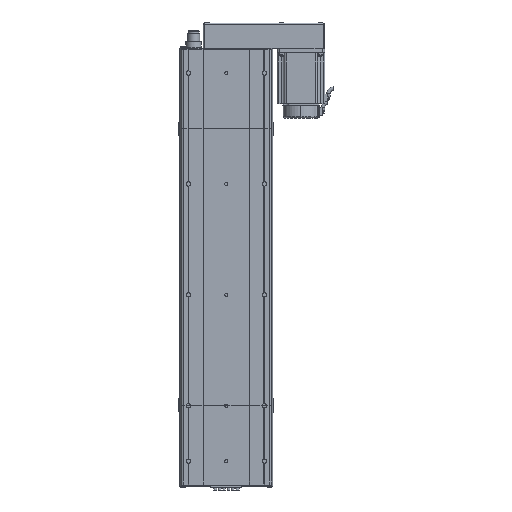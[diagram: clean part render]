
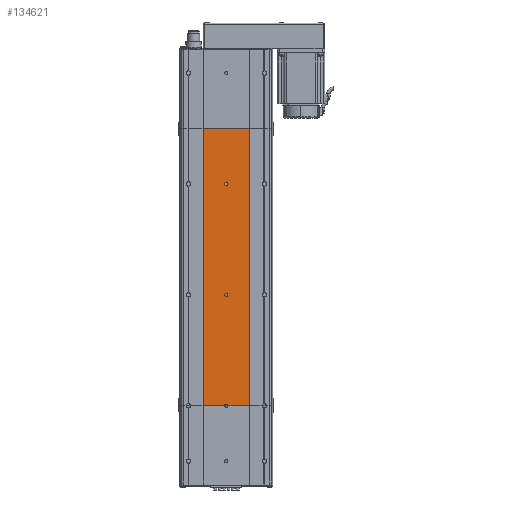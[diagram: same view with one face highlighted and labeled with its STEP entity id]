
A CAD part, front view. The second image highlights one B-rep face of the part: STEP entity #134621.
In plain terms, the highlighted planar face has unit normal (0, -1, 0).
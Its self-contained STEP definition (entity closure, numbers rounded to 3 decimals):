
#46738 = CARTESIAN_POINT ( 'NONE',  ( 0., 0., 197. ) ) ;
#49261 = DIRECTION ( 'NONE',  ( 1., 0., 0. ) ) ;
#49262 = VECTOR ( 'NONE', #49261, 1000. ) ;
#49263 = CARTESIAN_POINT ( 'NONE',  ( 0., 0., 500. ) ) ;
#49264 = LINE ( 'NONE', #49263, #49262 ) ;
#49394 = DIRECTION ( 'NONE',  ( 0., 0., 1. ) ) ;
#49395 = DIRECTION ( 'NONE',  ( 0., 1., 0. ) ) ;
#49396 = CARTESIAN_POINT ( 'NONE',  ( 0., 0., 500. ) ) ;
#49397 = AXIS2_PLACEMENT_3D ( 'NONE', #49396, #49395, #49394 ) ;
#49398 = CIRCLE ( 'NONE', #49571, 3. ) ;
#49477 = FACE_OUTER_BOUND ( 'NONE', #134989, .T. ) ;
#49567 = DIRECTION ( 'NONE',  ( 0., 0., -1. ) ) ;
#49568 = DIRECTION ( 'NONE',  ( 0., -1., 0. ) ) ;
#49570 = CARTESIAN_POINT ( 'NONE',  ( 0., 0., 200. ) ) ;
#49571 = AXIS2_PLACEMENT_3D ( 'NONE', #49570, #49568, #49567 ) ;
#49638 = FACE_BOUND ( 'NONE', #135048, .T. ) ;
#49703 = FACE_BOUND ( 'NONE', #135472, .T. ) ;
#49753 = PLANE ( 'NONE',  #49397 ) ;
#51355 = CARTESIAN_POINT ( 'NONE',  ( 0., 0., 397. ) ) ;
#51806 = DIRECTION ( 'NONE',  ( -1., 0., 0. ) ) ;
#51807 = CARTESIAN_POINT ( 'NONE',  ( 0., 0., 0. ) ) ;
#51810 = CARTESIAN_POINT ( 'NONE',  ( -41.5, 0., 0. ) ) ;
#51859 = VECTOR ( 'NONE', #51806, 1000. ) ;
#51866 = CARTESIAN_POINT ( 'NONE',  ( 41.5, 0., 0. ) ) ;
#51890 = LINE ( 'NONE', #51807, #51859 ) ;
#51891 = CARTESIAN_POINT ( 'NONE',  ( 41.5, 0., 500. ) ) ;
#52078 = CARTESIAN_POINT ( 'NONE',  ( -3., 0., 0. ) ) ;
#52090 = CARTESIAN_POINT ( 'NONE',  ( 0., 0., 403. ) ) ;
#52286 = DIRECTION ( 'NONE',  ( 0., 0., -1. ) ) ;
#52288 = DIRECTION ( 'NONE',  ( 0., -1., 0. ) ) ;
#52293 = AXIS2_PLACEMENT_3D ( 'NONE', #52435, #52288, #52286 ) ;
#52350 = CIRCLE ( 'NONE', #52293, 3. ) ;
#52435 = CARTESIAN_POINT ( 'NONE',  ( 0., 0., 400. ) ) ;
#53229 = CARTESIAN_POINT ( 'NONE',  ( 0., 0., 203. ) ) ;
#53368 = CARTESIAN_POINT ( 'NONE',  ( 0., 0., 0. ) ) ;
#53370 = CIRCLE ( 'NONE', #53527, 3. ) ;
#53371 = VECTOR ( 'NONE', #53498, 1000. ) ;
#53443 = VECTOR ( 'NONE', #53444, 1000. ) ;
#53444 = DIRECTION ( 'NONE',  ( 0., 0., -1. ) ) ;
#53445 = CARTESIAN_POINT ( 'NONE',  ( 41.5, 0., 500. ) ) ;
#53446 = LINE ( 'NONE', #53445, #53443 ) ;
#53447 = DIRECTION ( 'NONE',  ( 0., 0., -1. ) ) ;
#53448 = VECTOR ( 'NONE', #53447, 1000. ) ;
#53449 = CARTESIAN_POINT ( 'NONE',  ( -41.5, 0., 500. ) ) ;
#53494 = CARTESIAN_POINT ( 'NONE',  ( -41.5, 0., 500. ) ) ;
#53495 = DIRECTION ( 'NONE',  ( 0., -1., 0. ) ) ;
#53496 = CARTESIAN_POINT ( 'NONE',  ( 0., 0., 200. ) ) ;
#53498 = DIRECTION ( 'NONE',  ( 1., 0., 0. ) ) ;
#53499 = CARTESIAN_POINT ( 'NONE',  ( 0., 0., 0. ) ) ;
#53503 = CIRCLE ( 'NONE', #53525, 3. ) ;
#53508 = LINE ( 'NONE', #53499, #53371 ) ;
#53523 = DIRECTION ( 'NONE',  ( 0., 0., -1. ) ) ;
#53524 = DIRECTION ( 'NONE',  ( 0., -1., 0. ) ) ;
#53525 = AXIS2_PLACEMENT_3D ( 'NONE', #53496, #53524, #53523 ) ;
#53526 = DIRECTION ( 'NONE',  ( 0., 0., -1. ) ) ;
#53527 = AXIS2_PLACEMENT_3D ( 'NONE', #53368, #53495, #53526 ) ;
#53530 = LINE ( 'NONE', #53449, #53448 ) ;
#53584 = AXIS2_PLACEMENT_3D ( 'NONE', #53586, #53589, #53685 ) ;
#53586 = CARTESIAN_POINT ( 'NONE',  ( 0., 0., 400. ) ) ;
#53588 = CIRCLE ( 'NONE', #53584, 3. ) ;
#53589 = DIRECTION ( 'NONE',  ( 0., -1., 0. ) ) ;
#53685 = DIRECTION ( 'NONE',  ( 0., 0., -1. ) ) ;
#53710 = CARTESIAN_POINT ( 'NONE',  ( 3., 0., 0. ) ) ;
#134058 = VERTEX_POINT ( 'NONE', #46738 ) ;
#134508 = ORIENTED_EDGE ( 'NONE', *, *, #135259, .T. ) ;
#134553 = ORIENTED_EDGE ( 'NONE', *, *, #135268, .F. ) ;
#134556 = EDGE_CURVE ( 'NONE', #135296, #134977, #49264, .T. ) ;
#134621 = ADVANCED_FACE ( 'NONE', ( #49703, #49638, #49477 ), #49753, .F. ) ;
#134639 = EDGE_CURVE ( 'NONE', #135218, #134058, #49398, .T. ) ;
#134841 = VERTEX_POINT ( 'NONE', #51355 ) ;
#134977 = VERTEX_POINT ( 'NONE', #51891 ) ;
#134982 = VERTEX_POINT ( 'NONE', #51866 ) ;
#134984 = ORIENTED_EDGE ( 'NONE', *, *, #135078, .F. ) ;
#134989 = EDGE_LOOP ( 'NONE', ( #134998, #135303, #135267, #134553, #135301, #134508 ) ) ;
#134991 = VERTEX_POINT ( 'NONE', #52078 ) ;
#134994 = EDGE_CURVE ( 'NONE', #134991, #135000, #51890, .T. ) ;
#134998 = ORIENTED_EDGE ( 'NONE', *, *, #134994, .F. ) ;
#135000 = VERTEX_POINT ( 'NONE', #51810 ) ;
#135048 = EDGE_LOOP ( 'NONE', ( #135291, #134984 ) ) ;
#135062 = VERTEX_POINT ( 'NONE', #52090 ) ;
#135078 = EDGE_CURVE ( 'NONE', #135062, #134841, #52350, .T. ) ;
#135165 = ORIENTED_EDGE ( 'NONE', *, *, #135306, .F. ) ;
#135218 = VERTEX_POINT ( 'NONE', #53229 ) ;
#135259 = EDGE_CURVE ( 'NONE', #135296, #135000, #53530, .T. ) ;
#135267 = ORIENTED_EDGE ( 'NONE', *, *, #135293, .T. ) ;
#135268 = EDGE_CURVE ( 'NONE', #134977, #134982, #53446, .T. ) ;
#135291 = ORIENTED_EDGE ( 'NONE', *, *, #135373, .F. ) ;
#135293 = EDGE_CURVE ( 'NONE', #135330, #134982, #53508, .T. ) ;
#135296 = VERTEX_POINT ( 'NONE', #53494 ) ;
#135298 = EDGE_CURVE ( 'NONE', #135330, #134991, #53370, .T. ) ;
#135301 = ORIENTED_EDGE ( 'NONE', *, *, #134556, .F. ) ;
#135303 = ORIENTED_EDGE ( 'NONE', *, *, #135298, .F. ) ;
#135306 = EDGE_CURVE ( 'NONE', #134058, #135218, #53503, .T. ) ;
#135327 = ORIENTED_EDGE ( 'NONE', *, *, #134639, .F. ) ;
#135330 = VERTEX_POINT ( 'NONE', #53710 ) ;
#135373 = EDGE_CURVE ( 'NONE', #134841, #135062, #53588, .T. ) ;
#135472 = EDGE_LOOP ( 'NONE', ( #135165, #135327 ) ) ;
